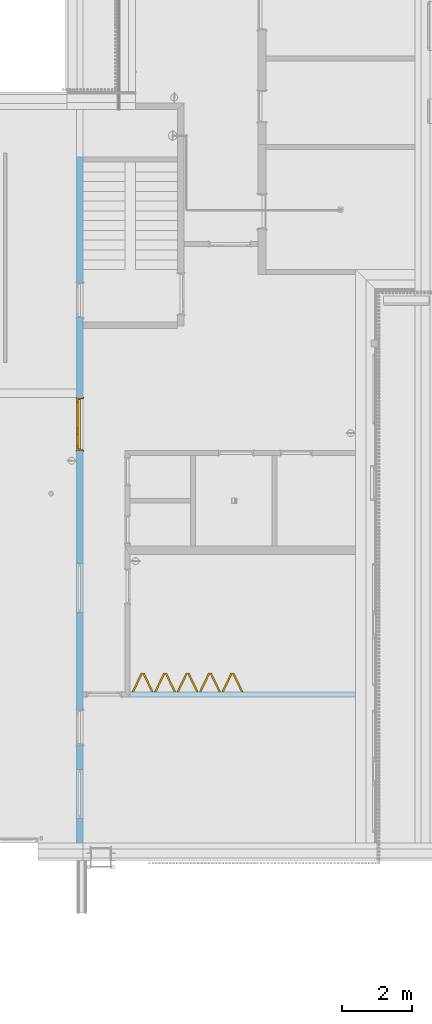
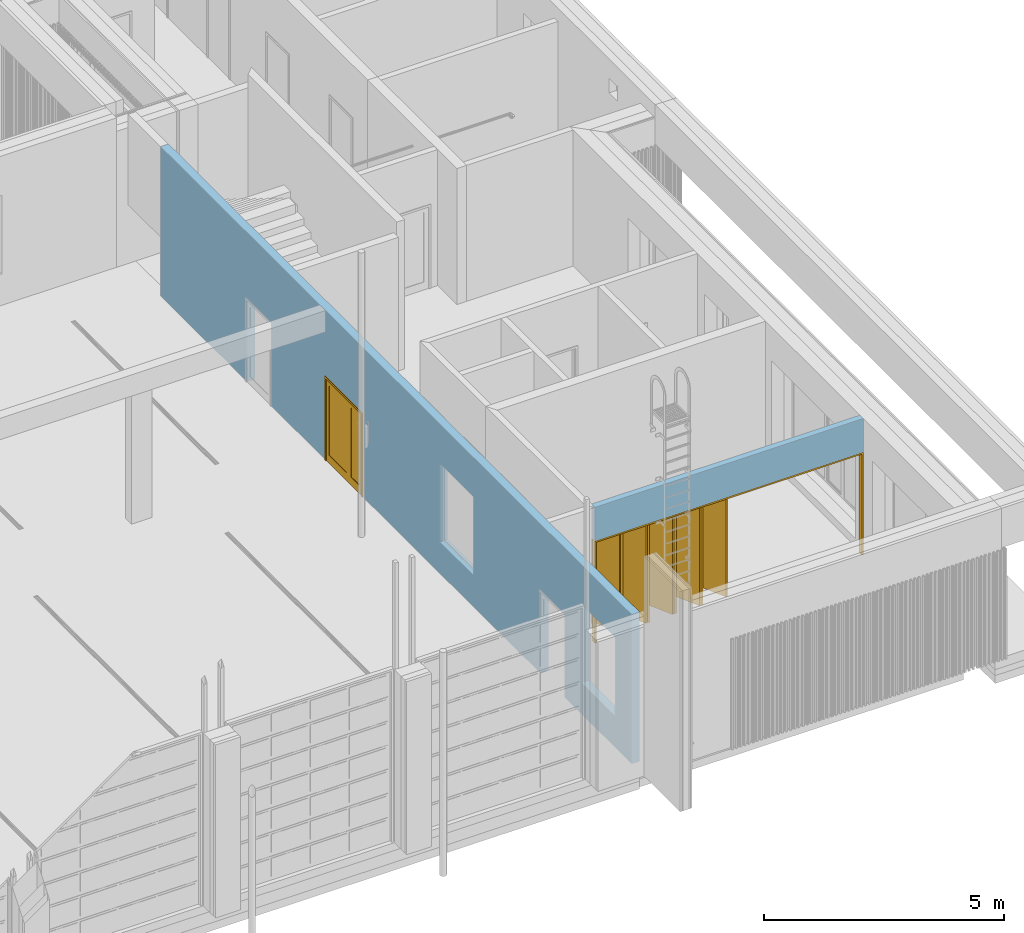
# One storey, part 43 of 112: 2 doors, 6 openings, plus 2 elements that do not belong to this part.
"""IFC2X3 building model written with IfcOpenShell, lengths in millimetres."""

from ifc_helpers import new_model, entity, si_unit, converted_unit, derived_unit, money_unit, direction, frame, origin_with_axes, origin_2d_with_axis, place, context, subcontext, project, spatial, polyline, rectangle, outline, extrude, open_shell, faceted_brep, surface_model, material, layer, layer_set, layer_usage, type_object, element, fill, save


model = new_model("IFC2X3")

# Units and contexts
model_context = context("Model", 3, precision=0.01, world=origin_with_axes(), true_north=direction((0.0, 1.0)))
body_context = subcontext(model_context, "Body", "Model", "MODEL_VIEW")
ifc_project = project(units=[si_unit("LENGTHUNIT", "METRE", prefix="MILLI"), si_unit("AREAUNIT", "SQUARE_METRE"), si_unit("VOLUMEUNIT", "CUBIC_METRE"), converted_unit("PLANEANGLEUNIT", "DEGREE", entity("IfcPlaneAngleMeasure", 0.0174532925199), si_unit("PLANEANGLEUNIT", "RADIAN"), dimensions=[0, 0, 0, 0, 0, 0, 0]), si_unit("SOLIDANGLEUNIT", "STERADIAN"), money_unit("EUR"), converted_unit("TIMEUNIT", "Year", entity("IfcTimeMeasure", 31556926.0), si_unit("TIMEUNIT", "SECOND"), dimensions=[0, 0, 1, 0, 0, 0, 0]), si_unit("MASSUNIT", "GRAM", prefix="KILO"), si_unit("THERMODYNAMICTEMPERATUREUNIT", "DEGREE_CELSIUS"), si_unit("LUMINOUSINTENSITYUNIT", "LUMEN"), si_unit("ENERGYUNIT", "JOULE", prefix="MEGA"), derived_unit("THERMALCONDUCTANCEUNIT", [(si_unit("POWERUNIT", "WATT"), 1), (si_unit("LENGTHUNIT", "METRE"), -1), (si_unit("THERMODYNAMICTEMPERATUREUNIT", "KELVIN"), -1)]), derived_unit("SPECIFICHEATCAPACITYUNIT", [(si_unit("ENERGYUNIT", "JOULE"), 1), (si_unit("MASSUNIT", "GRAM", prefix="KILO"), -1), (si_unit("THERMODYNAMICTEMPERATUREUNIT", "KELVIN"), -1)]), derived_unit("MASSDENSITYUNIT", [(si_unit("MASSUNIT", "GRAM", prefix="KILO"), 1), (si_unit("VOLUMEUNIT", "CUBIC_METRE"), -1)])], contexts=[model_context])

# Site, building, storey
site_placement = place(None, origin_with_axes())
site = spatial("IfcSite", under=ifc_project, at=site_placement, Name="Politse- ja Piirivalveameti ning Päästeameti ühishoone", CompositionType="ELEMENT")
building_placement = place(site_placement, origin_with_axes())
building = spatial("IfcBuilding", under=site, at=building_placement, Name="Politse- ja Piirivalveameti ning Päästeameti ühishoone", CompositionType="ELEMENT")
storey_placement = place(building_placement, origin_with_axes())
storey = spatial("IfcBuildingStorey", under=building, at=storey_placement, Name="Esimene korrus", CompositionType="ELEMENT", Elevation=0.0)

# Wall, openings, door
ifc_material = material(Name="KON-05_Betoon Plokk - Konstuktsioon")
ifc_layer_1 = layer(ifc_material, 190.0, ventilated="UNKNOWN")
ifc_layer_set_1 = layer_set([ifc_layer_1], Name="SS-03_Sisesein 190")
ifc_layer_usage_1 = layer_usage(ifc_layer_set_1, "AXIS2", "POSITIVE", -190.0)
wall_type_1 = type_object("IfcWallType", Name="SS-03_Sisesein 190 190", PredefinedType="NOTDEFINED")
wall_1_placement = place(storey_placement, frame((60160.5519118, 19639.9520832, 0.0), z_axis=(0.0, 0.0, 1.0), x_axis=(0.0, -1.0, 0.0)))
wall_1 = element("IfcWallStandardCase", 1, at=wall_1_placement, inside=storey, type_object=wall_type_1, material=ifc_layer_usage_1, Name="SS-03", context=body_context, shape_type="SweptSolid", body=[
    extrude(outline(polyline([(0.0, -190.0), (19639.9520832, -190.0), (19639.9520832, 0.0), (0.0, 0.0), (0.0, -190.0)])), origin_with_axes(), (0.0, 0.0, 1.0), 3800.0),
])
opening_1_placement = place(wall_1_placement, frame((12339.9387915, 0.0, 800.0), z_axis=(0.0, 0.0, 1.0), x_axis=(1.0, 0.0, 0.0)))
element("IfcOpeningElement", 2, at=opening_1_placement, cuts=wall_1, Name="TA-02", context=body_context, shape_type="SweptSolid", body=[
    extrude(rectangle(XDim=1400.0, YDim=2000.0, at=origin_2d_with_axis()), frame((0.0, -110.0, 1000.0), z_axis=(0.0, -1.0, 0.0), x_axis=(-1.0, 0.0, 0.0)), (0.0, 0.0, -1.0), 300.0),
    extrude(rectangle(XDim=1400.0, YDim=2000.0, at=origin_2d_with_axis()), frame((0.0, -110.0, 1000.0), z_axis=(0.0, 1.0, 0.0), x_axis=(-1.0, 0.0, 0.0)), (0.0, 0.0, -1.0), 270.0),
])
opening_2_placement = place(wall_1_placement, frame((18239.9387915, 0.0, 800.0), z_axis=(0.0, 0.0, 1.0), x_axis=(1.0, 0.0, 0.0)))
element("IfcOpeningElement", 3, at=opening_2_placement, cuts=wall_1, Name="TA-02", context=body_context, shape_type="SweptSolid", body=[
    extrude(rectangle(XDim=1400.0, YDim=2000.0, at=origin_2d_with_axis()), frame((0.0, -110.0, 1000.0), z_axis=(0.0, -1.0, 0.0), x_axis=(-1.0, 0.0, 0.0)), (0.0, 0.0, -1.0), 300.0),
    extrude(rectangle(XDim=1400.0, YDim=2000.0, at=origin_2d_with_axis()), frame((0.0, -110.0, 1000.0), z_axis=(0.0, 1.0, 0.0), x_axis=(-1.0, 0.0, 0.0)), (0.0, 0.0, -1.0), 270.0),
])
opening_3_placement = place(wall_1_placement, frame((7649.97516111, 0.0, 0.0), z_axis=(0.0, 0.0, 1.0), x_axis=(1.0, 0.0, 0.0)))
opening_3 = element("IfcOpeningElement", 4, at=opening_3_placement, cuts=wall_1, Name="TU-01-6", context=body_context, shape_type="SweptSolid", body=[
    extrude(rectangle(XDim=1500.0, YDim=2100.0, at=origin_2d_with_axis()), frame((0.0, 190.0, 1050.0), z_axis=(0.0, 1.0, 0.0), x_axis=(1.0, 0.0, 0.0)), (0.0, 0.0, -1.0), 570.0),
    extrude(rectangle(XDim=1574.0, YDim=2137.0, at=origin_2d_with_axis()), frame((0.0, 0.0, 1068.5), z_axis=(0.0, 1.0, 0.0), x_axis=(1.0, 0.0, 0.0)), (0.0, 0.0, 1.0), 190.0),
    extrude(rectangle(XDim=1574.0, YDim=2137.0, at=origin_2d_with_axis()), frame((0.0, -190.0, 1068.5), z_axis=(0.0, -1.0, 0.0), x_axis=(1.0, 0.0, 0.0)), (0.0, 0.0, 1.0), 190.0),
])
opening_4_placement = place(wall_1_placement, frame((16339.9387915, 0.0, 0.0), z_axis=(0.0, 0.0, 1.0), x_axis=(1.0, 0.0, 0.0)))
element("IfcOpeningElement", 5, at=opening_4_placement, cuts=wall_1, Name="TU-01-7", context=body_context, shape_type="SweptSolid", body=[
    extrude(rectangle(XDim=1000.0, YDim=2100.0, at=origin_2d_with_axis()), frame((0.0, 190.0, 1050.0), z_axis=(0.0, -1.0, 0.0), x_axis=(-1.0, 0.0, 0.0)), (0.0, 0.0, 1.0), 570.0),
    extrude(rectangle(XDim=1074.0, YDim=2137.0, at=origin_2d_with_axis()), frame((0.0, 0.0, 1068.5), z_axis=(0.0, -1.0, 0.0), x_axis=(-1.0, 0.0, 0.0)), (0.0, 0.0, -1.0), 190.0),
    extrude(rectangle(XDim=1074.0, YDim=2137.0, at=origin_2d_with_axis()), frame((0.0, -190.0, 1068.5), z_axis=(0.0, 1.0, 0.0), x_axis=(-1.0, 0.0, 0.0)), (0.0, 0.0, -1.0), 190.0),
])
opening_5_placement = place(wall_1_placement, frame((4099.64313689, 0.0, 0.0), z_axis=(0.0, 0.0, 1.0), x_axis=(1.0, 0.0, 0.0)))
element("IfcOpeningElement", 6, at=opening_5_placement, cuts=wall_1, Name="TU-01-7", context=body_context, shape_type="SweptSolid", body=[
    extrude(rectangle(XDim=1000.0, YDim=2100.0, at=origin_2d_with_axis()), frame((0.0, 190.0, 1050.0), z_axis=(0.0, -1.0, 0.0), x_axis=(-1.0, 0.0, 0.0)), (0.0, 0.0, 1.0), 570.0),
    extrude(rectangle(XDim=1074.0, YDim=2137.0, at=origin_2d_with_axis()), frame((0.0, 0.0, 1068.5), z_axis=(0.0, -1.0, 0.0), x_axis=(-1.0, 0.0, 0.0)), (0.0, 0.0, -1.0), 190.0),
    extrude(rectangle(XDim=1074.0, YDim=2137.0, at=origin_2d_with_axis()), frame((0.0, -190.0, 1068.5), z_axis=(0.0, 1.0, 0.0), x_axis=(-1.0, 0.0, 0.0)), (0.0, 0.0, -1.0), 190.0),
])
door_style_1 = type_object("IfcDoorStyle", Name="Double Door Asymmetric 23", ConstructionType="NOTDEFINED", OperationType="DOUBLE_DOOR_SINGLE_SWING", ParameterTakesPrecedence=False, Sizeable=False)
door_1_placement = place(opening_3_placement, frame((750.0, 0.0, 0.0), z_axis=(0.0, 0.0, 1.0), x_axis=(-1.0, 0.0, 0.0)))
door_1 = element("IfcDoor", 7, at=door_1_placement, inside=storey, type_object=door_style_1, Name="TU-01-6", ObjectType="DOOR", OverallHeight=2100.0, OverallWidth=1500.0, context=body_context, shape_type="SurfaceModel", body=[
    faceted_brep([(28.0, 150.0, 0.0), (40.0, 150.0, 0.0), (40.0, 150.0, 12.0), (28.0, 150.0, 12.0), (1472.0, 150.0, 0.0), (1460.0, 150.0, 0.0), (1460.0, 75.0, 0.0), (40.0, 75.0, 0.0), (40.0, 75.0, 12.0), (1460.0, 75.0, 12.0), (1460.0, 150.0, 12.0), (1472.0, 150.0, 12.0)], [[[0, 1, 2, 3]], [[0, 4, 5, 6, 7, 1]], [[1, 7, 8, 2]], [[3, 2, 8, 9, 10, 11]], [[4, 0, 3, 11]], [[5, 4, 11, 10]], [[6, 5, 10, 9]], [[7, 6, 9, 8]]]),
    faceted_brep([(1500.0, 75.0, 0.0), (1500.0, 0.0, 0.0), (1475.0, 0.0, 0.0), (1475.0, 75.0, 0.0), (1500.0, 75.0, 2100.0), (1500.0, 0.0, 2100.0), (1475.0, 0.0, 2075.0), (1475.0, 75.0, 2075.0)], [[[0, 1, 2, 3]], [[4, 5, 1, 0]], [[1, 5, 6, 2]], [[3, 2, 6, 7]], [[0, 3, 7, 4]], [[7, 6, 5, 4]]]),
    faceted_brep([(0.0, 75.0, 2100.0), (0.0, 0.0, 2100.0), (25.0, 0.0, 2075.0), (25.0, 75.0, 2075.0), (0.0, 75.0, 0.0), (0.0, 0.0, 0.0), (25.0, 0.0, 0.0), (25.0, 75.0, 0.0)], [[[0, 1, 2, 3]], [[4, 5, 1, 0]], [[1, 5, 6, 2]], [[3, 2, 6, 7]], [[0, 3, 7, 4]], [[7, 6, 5, 4]]]),
    faceted_brep([(1475.0, 75.0, 2075.0), (1475.0, 0.0, 2075.0), (25.0, 0.0, 2075.0), (25.0, 75.0, 2075.0), (1500.0, 75.0, 2100.0), (1500.0, 0.0, 2100.0), (0.0, 0.0, 2100.0), (0.0, 75.0, 2100.0)], [[[0, 1, 2, 3]], [[4, 5, 1, 0]], [[1, 5, 6, 2]], [[3, 2, 6, 7]], [[0, 3, 7, 4]], [[7, 6, 5, 4]]]),
    faceted_brep([(1537.0, -19.0, 0.0), (1487.0, -19.0, 0.0), (1487.0, 0.0, 0.0), (1537.0, 0.0, 0.0), (1537.0, -19.0, 2137.0), (1487.0, -19.0, 2087.0), (1487.0, 0.0, 2087.0), (1537.0, 0.0, 2137.0)], [[[0, 1, 2, 3]], [[0, 4, 5, 1]], [[1, 5, 6, 2]], [[3, 2, 6, 7]], [[4, 0, 3, 7]], [[5, 4, 7, 6]]]),
    faceted_brep([(-37.0, -19.0, 2137.0), (13.0, -19.0, 2087.0), (13.0, 0.0, 2087.0), (-37.0, 0.0, 2137.0), (-37.0, -19.0, 0.0), (13.0, -19.0, 0.0), (13.0, 0.0, 0.0), (-37.0, 0.0, 0.0)], [[[0, 1, 2, 3]], [[0, 4, 5, 1]], [[1, 5, 6, 2]], [[3, 2, 6, 7]], [[4, 0, 3, 7]], [[5, 4, 7, 6]]]),
    faceted_brep([(1537.0, -19.0, 2137.0), (1487.0, -19.0, 2087.0), (1487.0, 0.0, 2087.0), (1537.0, 0.0, 2137.0), (-37.0, -19.0, 2137.0), (13.0, -19.0, 2087.0), (13.0, 0.0, 2087.0), (-37.0, 0.0, 2137.0)], [[[0, 1, 2, 3]], [[0, 4, 5, 1]], [[1, 5, 6, 2]], [[3, 2, 6, 7]], [[4, 0, 3, 7]], [[5, 4, 7, 6]]]),
    faceted_brep([(1537.0, 209.0, 0.0), (1537.0, 190.0, 0.0), (1487.0, 190.0, 0.0), (1487.0, 209.0, 0.0), (1537.0, 209.0, 2137.0), (1537.0, 190.0, 2137.0), (1487.0, 190.0, 2087.0), (1487.0, 209.0, 2087.0)], [[[0, 1, 2, 3]], [[4, 5, 1, 0]], [[1, 5, 6, 2]], [[3, 2, 6, 7]], [[0, 3, 7, 4]], [[7, 6, 5, 4]]]),
    faceted_brep([(-37.0, 209.0, 2137.0), (-37.0, 190.0, 2137.0), (13.0, 190.0, 2087.0), (13.0, 209.0, 2087.0), (-37.0, 209.0, 0.0), (-37.0, 190.0, 0.0), (13.0, 190.0, 0.0), (13.0, 209.0, 0.0)], [[[0, 1, 2, 3]], [[4, 5, 1, 0]], [[1, 5, 6, 2]], [[3, 2, 6, 7]], [[0, 3, 7, 4]], [[7, 6, 5, 4]]]),
    faceted_brep([(1537.0, 209.0, 2137.0), (1537.0, 190.0, 2137.0), (1487.0, 190.0, 2087.0), (1487.0, 209.0, 2087.0), (-37.0, 209.0, 2137.0), (-37.0, 190.0, 2137.0), (13.0, 190.0, 2087.0), (13.0, 209.0, 2087.0)], [[[0, 1, 2, 3]], [[4, 5, 1, 0]], [[1, 5, 6, 2]], [[3, 2, 6, 7]], [[0, 3, 7, 4]], [[7, 6, 5, 4]]]),
    faceted_brep([(1460.0, 150.0, 0.0), (1460.0, 75.0, 0.0), (1460.0, 75.0, 2060.0), (1460.0, 150.0, 2060.0), (1472.0, 150.0, 0.0), (1472.0, 190.0, 0.0), (1500.0, 190.0, 0.0), (1500.0, 75.0, 0.0), (1500.0, 75.0, 2060.0), (1472.0, 150.0, 2060.0), (1500.0, 190.0, 2060.0), (1472.0, 190.0, 2060.0)], [[[0, 1, 2, 3]], [[4, 5, 6, 7, 1, 0]], [[1, 7, 8, 2]], [[9, 3, 2, 8, 10, 11]], [[9, 4, 0, 3]], [[11, 5, 4, 9]], [[11, 10, 6, 5]], [[6, 10, 8, 7]]]),
    faceted_brep([(28.0, 150.0, 2060.0), (28.0, 190.0, 2060.0), (0.0, 190.0, 2060.0), (0.0, 75.0, 2060.0), (40.0, 75.0, 2060.0), (40.0, 150.0, 2060.0), (28.0, 150.0, 0.0), (28.0, 190.0, 0.0), (0.0, 190.0, 0.0), (0.0, 75.0, 0.0), (40.0, 75.0, 0.0), (40.0, 150.0, 0.0)], [[[0, 1, 2, 3, 4, 5]], [[0, 6, 7, 1]], [[7, 8, 2, 1]], [[2, 8, 9, 3]], [[3, 9, 10, 4]], [[5, 4, 10, 11]], [[5, 11, 6, 0]], [[6, 11, 10, 9, 8, 7]]]),
    faceted_brep([(1472.0, 190.0, 2072.0), (28.0, 190.0, 2072.0), (28.0, 190.0, 2060.0), (0.0, 190.0, 2060.0), (0.0, 190.0, 2100.0), (1500.0, 190.0, 2100.0), (1500.0, 190.0, 2060.0), (1472.0, 190.0, 2060.0), (1472.0, 150.0, 2072.0), (28.0, 150.0, 2072.0), (28.0, 150.0, 2060.0), (40.0, 150.0, 2060.0), (40.0, 75.0, 2060.0), (0.0, 75.0, 2060.0), (0.0, 75.0, 2100.0), (1500.0, 75.0, 2100.0), (1500.0, 75.0, 2060.0), (1472.0, 150.0, 2060.0), (1460.0, 75.0, 2060.0), (1460.0, 150.0, 2060.0)], [[[0, 1, 2, 3, 4, 5, 6, 7]], [[0, 8, 9, 1]], [[1, 9, 10, 2]], [[10, 11, 12, 13, 3, 2]], [[4, 3, 13, 14]], [[5, 4, 14, 15]], [[6, 5, 15, 16]], [[17, 7, 6, 16, 18, 19]], [[7, 17, 8, 0]], [[10, 9, 8, 17, 19, 11]], [[19, 18, 12, 11]], [[12, 18, 16, 15, 14, 13]]]),
    faceted_brep([(28.0, 190.0, 200.0), (128.0, 190.0, 200.0), (128.0, 150.0, 200.0), (28.0, 150.0, 200.0), (28.0, 190.0, 1972.0), (128.0, 190.0, 1972.0), (128.0, 150.0, 1972.0), (28.0, 150.0, 1972.0)], [[[0, 1, 2, 3]], [[0, 4, 5, 1]], [[1, 5, 6, 2]], [[3, 2, 6, 7]], [[4, 0, 3, 7]], [[5, 4, 7, 6]]]),
    faceted_brep([(556.0, 190.0, 200.0), (556.0, 190.0, 1972.0), (556.0, 150.0, 1972.0), (556.0, 150.0, 200.0), (456.0, 190.0, 200.0), (456.0, 190.0, 1972.0), (456.0, 150.0, 1972.0), (456.0, 150.0, 200.0)], [[[0, 1, 2, 3]], [[0, 4, 5, 1]], [[1, 5, 6, 2]], [[3, 2, 6, 7]], [[4, 0, 3, 7]], [[5, 4, 7, 6]]]),
    faceted_brep([(28.0, 190.0, 0.0), (556.0, 190.0, 0.0), (556.0, 150.0, 0.0), (28.0, 150.0, 0.0), (28.0, 190.0, 200.0), (128.0, 190.0, 200.0), (456.0, 190.0, 200.0), (556.0, 190.0, 200.0), (556.0, 150.0, 200.0), (456.0, 150.0, 200.0), (128.0, 150.0, 200.0), (28.0, 150.0, 200.0)], [[[0, 1, 2, 3]], [[0, 4, 5, 6, 7, 1]], [[1, 7, 8, 2]], [[3, 2, 8, 9, 10, 11]], [[4, 0, 3, 11]], [[5, 4, 11, 10]], [[6, 5, 10, 9]], [[7, 6, 9, 8]]]),
    faceted_brep([(28.0, 190.0, 2072.0), (28.0, 190.0, 1972.0), (28.0, 150.0, 1972.0), (28.0, 150.0, 2072.0), (556.0, 190.0, 2072.0), (556.0, 190.0, 1972.0), (456.0, 190.0, 1972.0), (128.0, 190.0, 1972.0), (128.0, 150.0, 1972.0), (456.0, 150.0, 1972.0), (556.0, 150.0, 1972.0), (556.0, 150.0, 2072.0)], [[[0, 1, 2, 3]], [[0, 4, 5, 6, 7, 1]], [[1, 7, 8, 2]], [[3, 2, 8, 9, 10, 11]], [[4, 0, 3, 11]], [[5, 4, 11, 10]], [[6, 5, 10, 9]], [[7, 6, 9, 8]]]),
    surface_model("IfcShellBasedSurfaceModel", [(128.0, 176.0, 200.0), (128.0, 176.0, 1972.0), (456.0, 176.0, 1972.0), (456.0, 176.0, 200.0)], [open_shell([[[0, 1, 2, 3]]])]),
    surface_model("IfcShellBasedSurfaceModel", [(128.0, 164.0, 200.0), (456.0, 164.0, 200.0), (456.0, 164.0, 1972.0), (128.0, 164.0, 1972.0)], [open_shell([[[0, 1, 2, 3]]])]),
    faceted_brep([(1472.0, 190.0, 200.0), (1472.0, 150.0, 200.0), (1372.0, 150.0, 200.0), (1372.0, 190.0, 200.0), (1472.0, 190.0, 1972.0), (1472.0, 150.0, 1972.0), (1372.0, 150.0, 1972.0), (1372.0, 190.0, 1972.0)], [[[0, 1, 2, 3]], [[4, 5, 1, 0]], [[1, 5, 6, 2]], [[3, 2, 6, 7]], [[0, 3, 7, 4]], [[7, 6, 5, 4]]]),
    faceted_brep([(556.0, 190.0, 200.0), (556.0, 150.0, 200.0), (556.0, 150.0, 1972.0), (556.0, 190.0, 1972.0), (656.0, 190.0, 200.0), (656.0, 150.0, 200.0), (656.0, 150.0, 1972.0), (656.0, 190.0, 1972.0)], [[[0, 1, 2, 3]], [[4, 5, 1, 0]], [[1, 5, 6, 2]], [[3, 2, 6, 7]], [[0, 3, 7, 4]], [[7, 6, 5, 4]]]),
    faceted_brep([(1472.0, 190.0, 0.0), (1472.0, 150.0, 0.0), (556.0, 150.0, 0.0), (556.0, 190.0, 0.0), (1472.0, 190.0, 200.0), (1472.0, 150.0, 200.0), (1372.0, 150.0, 200.0), (656.0, 150.0, 200.0), (556.0, 150.0, 200.0), (556.0, 190.0, 200.0), (656.0, 190.0, 200.0), (1372.0, 190.0, 200.0)], [[[0, 1, 2, 3]], [[4, 5, 1, 0]], [[1, 5, 6, 7, 8, 2]], [[3, 2, 8, 9]], [[0, 3, 9, 10, 11, 4]], [[11, 6, 5, 4]], [[10, 7, 6, 11]], [[9, 8, 7, 10]]]),
    faceted_brep([(1472.0, 190.0, 2072.0), (1472.0, 150.0, 2072.0), (1472.0, 150.0, 1972.0), (1472.0, 190.0, 1972.0), (556.0, 190.0, 2072.0), (556.0, 150.0, 2072.0), (556.0, 150.0, 1972.0), (656.0, 150.0, 1972.0), (1372.0, 150.0, 1972.0), (1372.0, 190.0, 1972.0), (656.0, 190.0, 1972.0), (556.0, 190.0, 1972.0)], [[[0, 1, 2, 3]], [[4, 5, 1, 0]], [[1, 5, 6, 7, 8, 2]], [[3, 2, 8, 9]], [[0, 3, 9, 10, 11, 4]], [[11, 6, 5, 4]], [[10, 7, 6, 11]], [[9, 8, 7, 10]]]),
    surface_model("IfcShellBasedSurfaceModel", [(1372.0, 176.0, 200.0), (656.0, 176.0, 200.0), (656.0, 176.0, 1972.0), (1372.0, 176.0, 1972.0)], [open_shell([[[0, 1, 2, 3]]])]),
    surface_model("IfcShellBasedSurfaceModel", [(1372.0, 164.0, 200.0), (1372.0, 164.0, 1972.0), (656.0, 164.0, 1972.0), (656.0, 164.0, 200.0)], [open_shell([[[0, 1, 2, 3]]])]),
])
fill(opening_3, door_1)

# Wall, opening, door
ifc_layer_2 = layer(ifc_material, 140.0, ventilated="UNKNOWN")
ifc_layer_set_2 = layer_set([ifc_layer_2], Name="SS-02_Sisesein 140")
ifc_layer_usage_2 = layer_usage(ifc_layer_set_2, "AXIS2", "NEGATIVE", 70.0)
wall_type_2 = type_object("IfcWallType", Name="SS-02_Sisesein 140 140", PredefinedType="NOTDEFINED")
wall_2_placement = place(storey_placement, frame((61500.5519118, 4250.00649306, 0.0), z_axis=(0.0, 0.0, 1.0), x_axis=(1.0, 0.0, 0.0)))
wall_2 = element("IfcWallStandardCase", 8, at=wall_2_placement, inside=storey, type_object=wall_type_2, material=ifc_layer_usage_2, Name="SS-02", context=body_context, shape_type="SweptSolid", body=[
    extrude(outline(polyline([(0.0, -70.0), (6460.01191667, -70.0), (6460.01191667, 70.0), (0.0, 70.0), (0.0, -70.0)])), origin_with_axes(), (0.0, 0.0, 1.0), 3460.0),
])
opening_6_placement = place(wall_2_placement, frame((3230.00595833, 0.0, 0.0), z_axis=(0.0, 0.0, 1.0), x_axis=(1.0, 0.0, 0.0)))
opening_6 = element("IfcOpeningElement", 9, at=opening_6_placement, cuts=wall_2, Name="VOU-01", context=body_context, shape_type="SweptSolid", body=[
    extrude(rectangle(XDim=6460.01191667, YDim=2600.0, at=origin_2d_with_axis()), frame((0.0, 140.0, 1300.0), z_axis=(0.0, -1.0, 0.0), x_axis=(1.0, 0.0, 0.0)), (0.0, 0.0, 1.0), 420.0),
])
door_style_2 = type_object("IfcDoorStyle", Name="Sliding Folding Multipanel Door 23", ConstructionType="NOTDEFINED", OperationType="FOLDING_TO_RIGHT", ParameterTakesPrecedence=False, Sizeable=False)
door_2_placement = place(opening_6_placement, frame((-3230.00595833, 0.0, 0.0), z_axis=(0.0, 0.0, 1.0), x_axis=(1.0, 0.0, 0.0)))
door_2 = element("IfcDoor", 10, at=door_2_placement, inside=storey, type_object=door_style_2, Name="VOU-01", ObjectType="DOOR", OverallHeight=2600.0, OverallWidth=6460.01, context=body_context, shape_type="Brep", body=[
    faceted_brep([(0.0, 45.0, 0.0), (40.0, 45.0, 0.0), (40.0, -70.0, 0.0), (0.0, -70.0, 0.0), (0.0, 45.0, 2560.0), (40.0, 45.0, 2560.0), (40.0, -70.0, 2560.0), (0.0, -70.0, 2560.0)], [[[0, 1, 2, 3]], [[0, 4, 5, 1]], [[1, 5, 6, 2]], [[3, 2, 6, 7]], [[4, 0, 3, 7]], [[5, 4, 7, 6]]]),
    faceted_brep([(6460.01191667, 45.0, 0.0), (6460.01191667, 45.0, 2560.0), (6460.01191667, -70.0, 2560.0), (6460.01191667, -70.0, 0.0), (6420.01191667, 45.0, 0.0), (6420.01191667, 45.0, 2560.0), (6420.01191667, -70.0, 2560.0), (6420.01191667, -70.0, 0.0)], [[[0, 1, 2, 3]], [[0, 4, 5, 1]], [[1, 5, 6, 2]], [[3, 2, 6, 7]], [[4, 0, 3, 7]], [[5, 4, 7, 6]]]),
    faceted_brep([(0.0, 45.0, 2600.0), (0.0, 45.0, 2560.0), (0.0, -70.0, 2560.0), (0.0, -70.0, 2600.0), (6460.01191667, 45.0, 2600.0), (6460.01191667, 45.0, 2560.0), (6420.01191667, 45.0, 2560.0), (40.0, 45.0, 2560.0), (40.0, -70.0, 2560.0), (6420.01191667, -70.0, 2560.0), (6460.01191667, -70.0, 2560.0), (6460.01191667, -70.0, 2600.0)], [[[0, 1, 2, 3]], [[0, 4, 5, 6, 7, 1]], [[1, 7, 8, 2]], [[3, 2, 8, 9, 10, 11]], [[4, 0, 3, 11]], [[5, 4, 11, 10]], [[6, 5, 10, 9]], [[7, 6, 9, 8]]]),
    faceted_brep([(40.0, 45.0, 0.0), (316.43410916, 620.004090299, 0.0), (361.497041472, 598.340015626, 0.0), (85.0629323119, 23.3359253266, 0.0), (40.0, 45.0, 2560.0), (316.43410916, 620.004090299, 2560.0), (361.497041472, 598.340015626, 2560.0), (85.0629323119, 23.3359253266, 2560.0)], [[[0, 1, 2, 3]], [[0, 4, 5, 1]], [[1, 5, 6, 2]], [[3, 2, 6, 7]], [[4, 0, 3, 7]], [[5, 4, 7, 6]]]),
    faceted_brep([(406.559973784, 620.004090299, 0.0), (682.994082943, 45.0, 0.0), (637.931150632, 23.3359253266, 0.0), (361.497041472, 598.340015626, 0.0), (406.559973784, 620.004090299, 2560.0), (682.994082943, 45.0, 2560.0), (637.931150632, 23.3359253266, 2560.0), (361.497041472, 598.340015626, 2560.0)], [[[0, 1, 2, 3]], [[0, 4, 5, 1]], [[1, 5, 6, 2]], [[3, 2, 6, 7]], [[4, 0, 3, 7]], [[5, 4, 7, 6]]]),
    faceted_brep([(682.994082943, 45.0, 0.0), (959.428192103, 620.004090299, 0.0), (1004.49112442, 598.340015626, 0.0), (728.057015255, 23.3359253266, 0.0), (682.994082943, 45.0, 2560.0), (959.428192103, 620.004090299, 2560.0), (1004.49112442, 598.340015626, 2560.0), (728.057015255, 23.3359253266, 2560.0)], [[[0, 1, 2, 3]], [[0, 4, 5, 1]], [[1, 5, 6, 2]], [[3, 2, 6, 7]], [[4, 0, 3, 7]], [[5, 4, 7, 6]]]),
    faceted_brep([(1049.55405673, 620.004090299, 0.0), (1325.98816589, 45.0, 0.0), (1280.92523358, 23.3359253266, 0.0), (1004.49112442, 598.340015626, 0.0), (1049.55405673, 620.004090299, 2560.0), (1325.98816589, 45.0, 2560.0), (1280.92523358, 23.3359253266, 2560.0), (1004.49112442, 598.340015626, 2560.0)], [[[0, 1, 2, 3]], [[0, 4, 5, 1]], [[1, 5, 6, 2]], [[3, 2, 6, 7]], [[4, 0, 3, 7]], [[5, 4, 7, 6]]]),
    faceted_brep([(1325.98816589, 45.0, 0.0), (1602.42227505, 620.004090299, 0.0), (1647.48520736, 598.340015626, 0.0), (1371.0510982, 23.3359253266, 0.0), (1325.98816589, 45.0, 2560.0), (1602.42227505, 620.004090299, 2560.0), (1647.48520736, 598.340015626, 2560.0), (1371.0510982, 23.3359253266, 2560.0)], [[[0, 1, 2, 3]], [[0, 4, 5, 1]], [[1, 5, 6, 2]], [[3, 2, 6, 7]], [[4, 0, 3, 7]], [[5, 4, 7, 6]]]),
    faceted_brep([(1692.54813967, 620.004090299, 0.0), (1968.98224883, 45.0, 0.0), (1923.91931652, 23.3359253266, 0.0), (1647.48520736, 598.340015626, 0.0), (1692.54813967, 620.004090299, 2560.0), (1968.98224883, 45.0, 2560.0), (1923.91931652, 23.3359253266, 2560.0), (1647.48520736, 598.340015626, 2560.0)], [[[0, 1, 2, 3]], [[0, 4, 5, 1]], [[1, 5, 6, 2]], [[3, 2, 6, 7]], [[4, 0, 3, 7]], [[5, 4, 7, 6]]]),
    faceted_brep([(1968.98224883, 45.0, 0.0), (2245.41635799, 620.004090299, 0.0), (2290.4792903, 598.340015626, 0.0), (2014.04518114, 23.3359253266, 0.0), (1968.98224883, 45.0, 2560.0), (2245.41635799, 620.004090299, 2560.0), (2290.4792903, 598.340015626, 2560.0), (2014.04518114, 23.3359253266, 2560.0)], [[[0, 1, 2, 3]], [[0, 4, 5, 1]], [[1, 5, 6, 2]], [[3, 2, 6, 7]], [[4, 0, 3, 7]], [[5, 4, 7, 6]]]),
    faceted_brep([(2335.54222261, 620.004090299, 0.0), (2611.97633177, 45.0, 0.0), (2566.91339946, 23.3359253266, 0.0), (2290.4792903, 598.340015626, 0.0), (2335.54222261, 620.004090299, 2560.0), (2611.97633177, 45.0, 2560.0), (2566.91339946, 23.3359253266, 2560.0), (2290.4792903, 598.340015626, 2560.0)], [[[0, 1, 2, 3]], [[0, 4, 5, 1]], [[1, 5, 6, 2]], [[3, 2, 6, 7]], [[4, 0, 3, 7]], [[5, 4, 7, 6]]]),
    faceted_brep([(2611.97633177, 45.0, 0.0), (2888.41044093, 620.004090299, 0.0), (2933.47337325, 598.340015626, 0.0), (2657.03926409, 23.3359253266, 0.0), (2611.97633177, 45.0, 2560.0), (2888.41044093, 620.004090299, 2560.0), (2933.47337325, 598.340015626, 2560.0), (2657.03926409, 23.3359253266, 2560.0)], [[[0, 1, 2, 3]], [[0, 4, 5, 1]], [[1, 5, 6, 2]], [[3, 2, 6, 7]], [[4, 0, 3, 7]], [[5, 4, 7, 6]]]),
    faceted_brep([(2978.53630556, 620.004090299, 0.0), (3254.97041472, 45.0, 0.0), (3209.90748241, 23.3359253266, 0.0), (2933.47337325, 598.340015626, 0.0), (2978.53630556, 620.004090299, 2560.0), (3254.97041472, 45.0, 2560.0), (3209.90748241, 23.3359253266, 2560.0), (2933.47337325, 598.340015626, 2560.0)], [[[0, 1, 2, 3]], [[0, 4, 5, 1]], [[1, 5, 6, 2]], [[3, 2, 6, 7]], [[4, 0, 3, 7]], [[5, 4, 7, 6]]]),
])
fill(opening_6, door_2)

save(model, "model.ifc")
